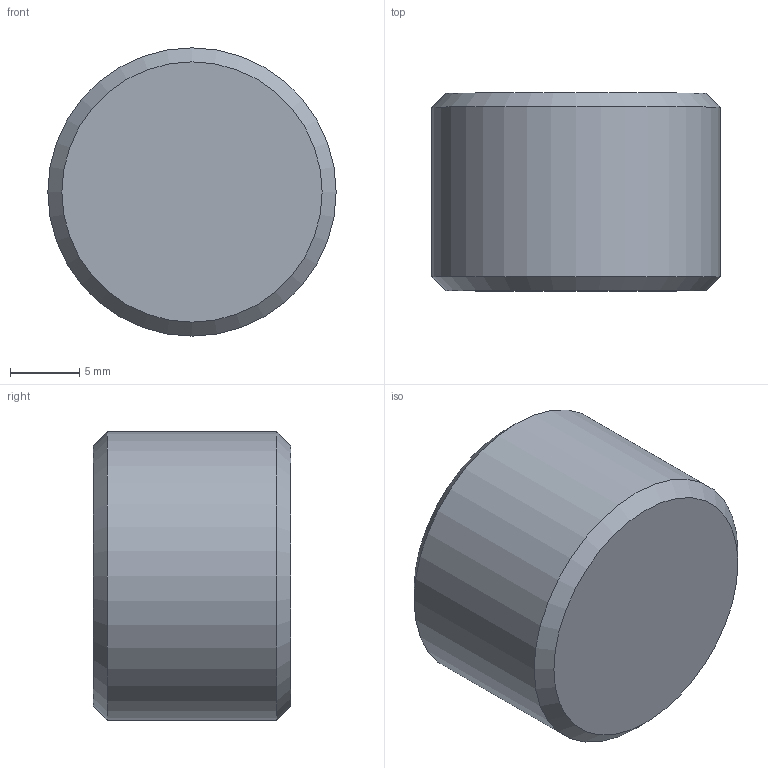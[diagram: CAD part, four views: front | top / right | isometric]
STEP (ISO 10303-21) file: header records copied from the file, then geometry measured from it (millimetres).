
FILE_DESCRIPTION(/* description */ (''),/* implementation_level */ '2;1');
FILE_NAME(/* name */ 'C:/Users/drich/Desktop/cad/Plugs/NPT Pipe Plugs/Dry Seal 3_4 Taper/Stainless Steel/SSD-12 v1.step',/* time_stamp */ '2020-01-10T11:33:56-06:00',/* author */ (''),/* organization */ (''),/* preprocessor_version */ 'ST-DEVELOPER v18',/* originating_system */ 'Autodesk Translation Framework v8.12.0.6',/* authorisation */ '');
FILE_SCHEMA (('AUTOMOTIVE_DESIGN { 1 0 10303 214 3 1 1 }'));
Length unit declared in the file: inch
Products named in the file (1): SSD-12
Bounding box: 20.81 x 14.27 x 20.81 mm (x, y, z)
Volume: 4100 mm3; surface area: 1809.4 mm2
Topology: 1 solids, 1 shells, 13 faces, 35 edges, 25 vertices
Faces by surface type: plane 9, cone 3, cylinder 1
Full cylindrical faces by diameter (mm): 20.813 x1
Entity records: 439 total; most frequent: CARTESIAN_POINT 98, ORIENTED_EDGE 70, DIRECTION 58, EDGE_CURVE 35, VERTEX_POINT 25, AXIS2_PLACEMENT_3D 21, LINE 16, VECTOR 16
